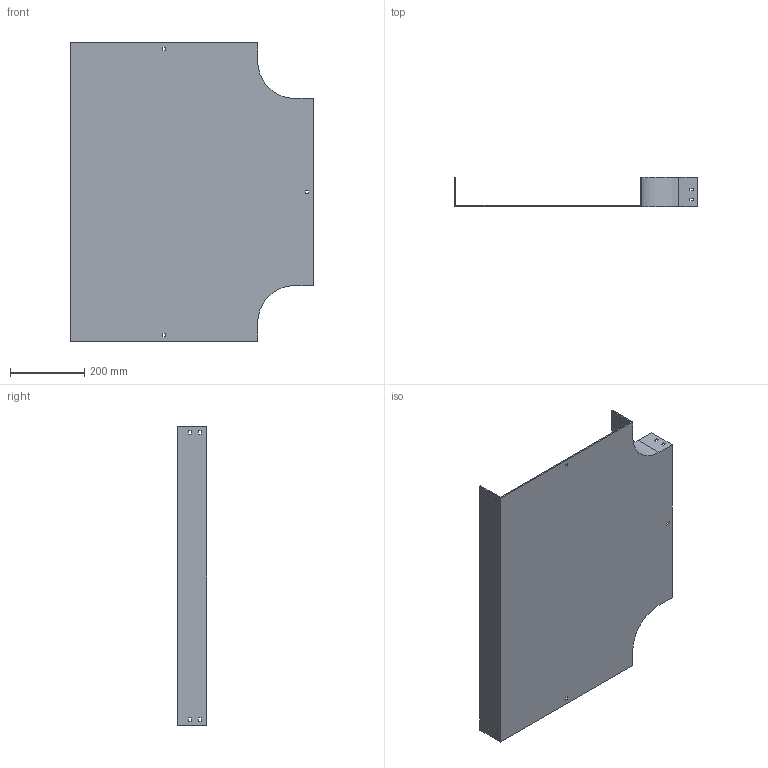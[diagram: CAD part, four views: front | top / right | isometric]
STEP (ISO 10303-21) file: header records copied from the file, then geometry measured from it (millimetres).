
FILE_DESCRIPTION (( 'STEP AP214' ), '1' );
FILE_NAME ('15B1C500.step', '2025-02-21T09:55:27', ( '' ), ( '' ), 'SwSTEP 2.0', 'SolidWorks 2023', '' );
FILE_SCHEMA (( 'AUTOMOTIVE_DESIGN' ));
Length unit declared in the file: millimetre
Products named in the file (1): 15B1C500
Bounding box: 654 x 79 x 804 mm (x, y, z)
Volume: 2044100.3 mm3; surface area: 1181301.8 mm2
Topology: 1 solids, 1 shells, 82 faces, 240 edges, 160 vertices
Faces by surface type: plane 78, cylinder 4
Entity records: 2755 total; most frequent: CARTESIAN_POINT 483, ORIENTED_EDGE 480, DIRECTION 414, EDGE_CURVE 240, VECTOR 232, LINE 232, VERTEX_POINT 160, EDGE_LOOP 112
